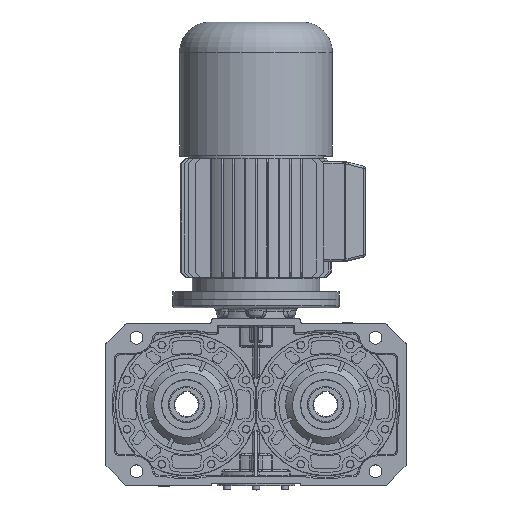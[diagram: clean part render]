
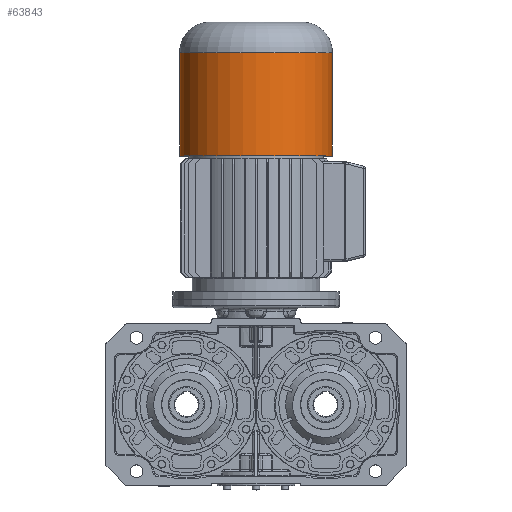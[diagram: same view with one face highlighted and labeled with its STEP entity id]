
A CAD part, top view. The second image highlights one B-rep face of the part: STEP entity #63843.
In plain terms, the highlighted cylindrical face has radius 137.5 mm (diameter 275 mm), a full revolution.
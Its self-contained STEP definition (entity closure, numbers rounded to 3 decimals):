
#63700=CARTESIAN_POINT('',(524.0,137.5,0.0));
#63701=VERTEX_POINT('',#63700);
#63702=CARTESIAN_POINT('',(524.0,0.0,0.0));
#63703=DIRECTION('',(1.0,0.0,0.0));
#63704=DIRECTION('',(0.0,1.0,0.0));
#63705=AXIS2_PLACEMENT_3D('',#63702,#63703,#63704);
#63706=CIRCLE('',#63705,137.5);
#63707=EDGE_CURVE('',#63701,#63701,#63706,.T.);
#63817=CARTESIAN_POINT('',(338.0,137.5,0.0));
#63818=VERTEX_POINT('',#63817);
#63819=CARTESIAN_POINT('',(338.0,0.0,0.0));
#63820=DIRECTION('',(1.0,0.0,0.0));
#63821=DIRECTION('',(0.0,1.0,0.0));
#63822=AXIS2_PLACEMENT_3D('',#63819,#63820,#63821);
#63823=CIRCLE('',#63822,137.5);
#63824=EDGE_CURVE('',#63818,#63818,#63823,.T.);
#63832=CARTESIAN_POINT('',(431.0,0.0,0.0));
#63833=DIRECTION('',(1.0,0.0,0.0));
#63834=DIRECTION('',(0.0,1.0,0.0));
#63835=AXIS2_PLACEMENT_3D('',#63832,#63833,#63834);
#63836=CYLINDRICAL_SURFACE('',#63835,137.5);
#63837=ORIENTED_EDGE('',*,*,#63707,.F.);
#63838=EDGE_LOOP('',(#63837));
#63839=FACE_OUTER_BOUND('',#63838,.T.);
#63840=ORIENTED_EDGE('',*,*,#63824,.T.);
#63841=EDGE_LOOP('',(#63840));
#63842=FACE_BOUND('',#63841,.T.);
#63843=ADVANCED_FACE('',(#63839,#63842),#63836,.T.);
